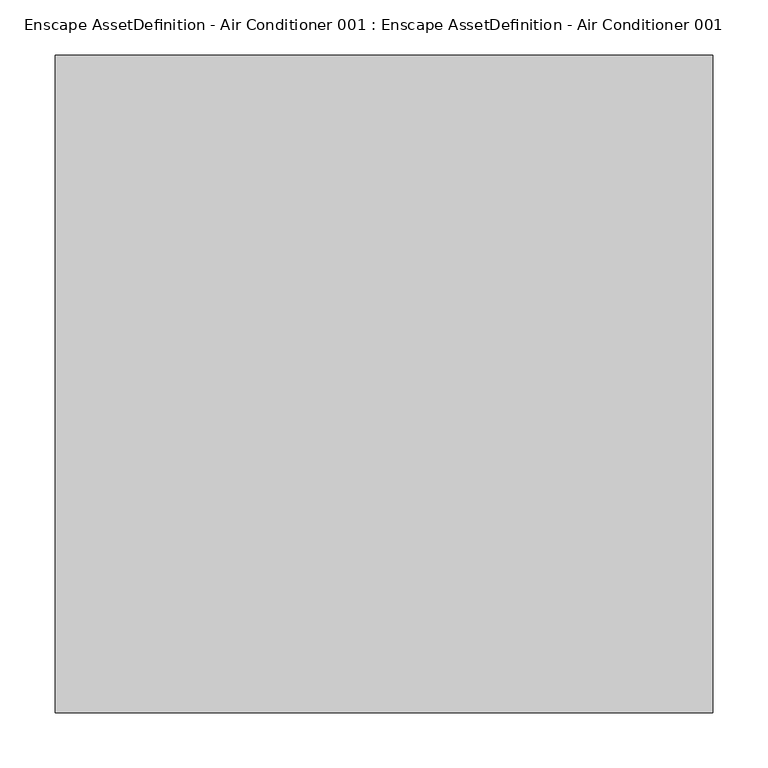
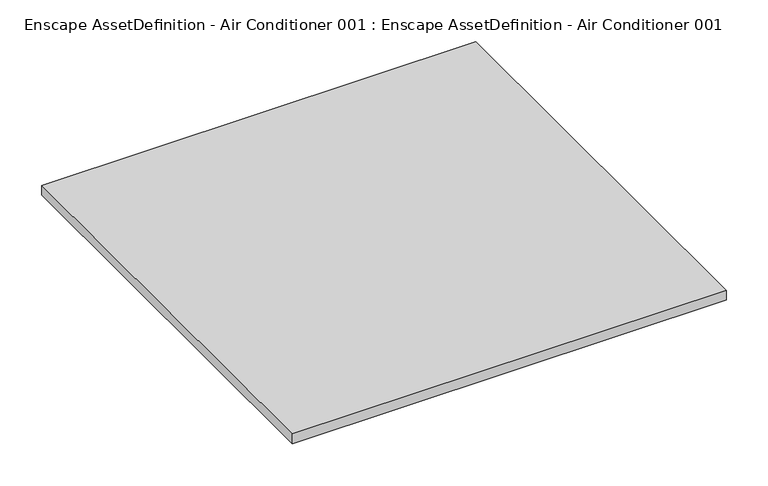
"""IFC4 building model written with IfcOpenShell, lengths in millimetres: geographic element geometry, Enscape AssetDefinition - Air Conditioner 001 : Enscape AssetDefinition - Air Conditioner 001."""

from ifc_helpers import new_model, si_unit, origin, place, context, project, spatial, triangles, source, transform, mapped, element, save


def enscape_assetdefinition_air_conditioner_001_enscape_db724180(model_context):
    return source(origin(), model_context, "Body", "Tessellation", [
        triangles([(298.8579935, -298.8579935, 0.0), (298.8579935, 298.8579935, 0.0), (-298.8579935, 298.8579935, 0.0), (-298.8579935, -298.8579935, 0.0), (-298.8579935, -298.8579935, -14.2409992), (-298.8579935, 298.8579935, -14.2409992), (298.8579935, -298.8579935, -14.2409992), (298.8579935, 298.8579935, -14.2409992)], [[7, 6, 8], [5, 6, 7], [2, 8, 6], [3, 2, 6], [1, 7, 8], [2, 1, 8], [4, 5, 7], [1, 4, 7], [3, 6, 5], [4, 3, 5], [1, 2, 3], [4, 1, 3]]),
    ])


if __name__ == "__main__":
    model = new_model("IFC4")
    model_context = context("Model", 3, world=origin())
    ifc_project = project(units=[si_unit("LENGTHUNIT", "METRE", prefix="MILLI")], contexts=[model_context])
    site = spatial("IfcSite", under=ifc_project)
    building = spatial("IfcBuilding", under=site)
    placement = place(None, origin())
    enscape_assetdefinition_air_conditioner_001_enscape_shape = enscape_assetdefinition_air_conditioner_001_enscape_db724180(model_context)
    element("IfcGeographicElement", 1, ObjectType="Enscape AssetDefinition - Air Conditioner 001 : Enscape AssetDefinition - Air Conditioner 001", at=placement, inside=building, context=model_context, shape_type="MappedRepresentation", body=[
        mapped(enscape_assetdefinition_air_conditioner_001_enscape_shape, transform((0.0, 0.0, 0.0), x_axis=(1.0, 0.0, 0.0), y_axis=(0.0, 1.0, 0.0), z_axis=(0.0, 0.0, 1.0))),
    ])
    save(model, "model.ifc")
